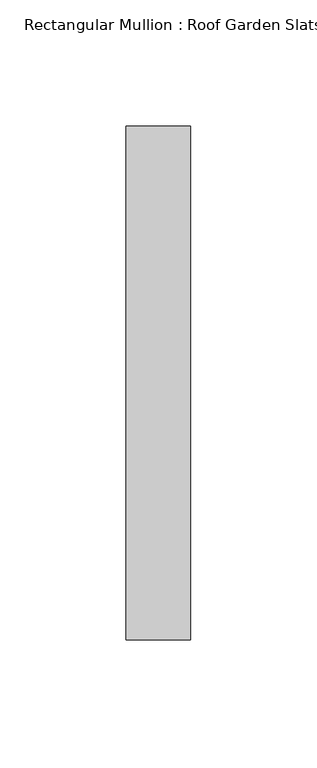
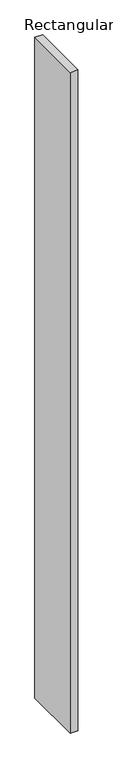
"""IFC4 building model written with IfcOpenShell, lengths in millimetres: member geometry, Rectangular Mullion : Roof Garden Slats."""

from ifc_helpers import new_model, si_unit, frame, origin, place, context, project, spatial, polyline, outline, extrude, source, transform, mapped, element, save


def rectangular_mullion_roof_garden_slats_ffd02929(model_context):
    return source(origin(), model_context, "Body", "SweptSolid", [
        extrude(outline(polyline([(0.0, 139.7), (0.0, -63.5), (-25.4, -63.5), (-25.4, 139.7), (0.0, 139.7)])), frame((0.0, 0.0, -2320.8970329), z_axis=(0.0, 0.0, 1.0), x_axis=(1.0, 0.0, 0.0)), (0.0, 0.0, 1.0), 2320.8970329),
    ])


if __name__ == "__main__":
    model = new_model("IFC4")
    model_context = context("Model", 3, world=origin())
    ifc_project = project(units=[si_unit("LENGTHUNIT", "METRE", prefix="MILLI")], contexts=[model_context])
    site = spatial("IfcSite", under=ifc_project)
    building = spatial("IfcBuilding", under=site)
    placement = place(None, origin())
    rectangular_mullion_roof_garden_slats_shape = rectangular_mullion_roof_garden_slats_ffd02929(model_context)
    element("IfcMember", 1, ObjectType="Rectangular Mullion : Roof Garden Slats", at=placement, inside=building, context=model_context, shape_type="MappedRepresentation", body=[
        mapped(rectangular_mullion_roof_garden_slats_shape, transform((0.0, 0.0, 0.0), x_axis=(1.0, 0.0, 0.0), y_axis=(0.0, 1.0, 0.0), z_axis=(0.0, 0.0, 1.0))),
    ])
    save(model, "model.ifc")
